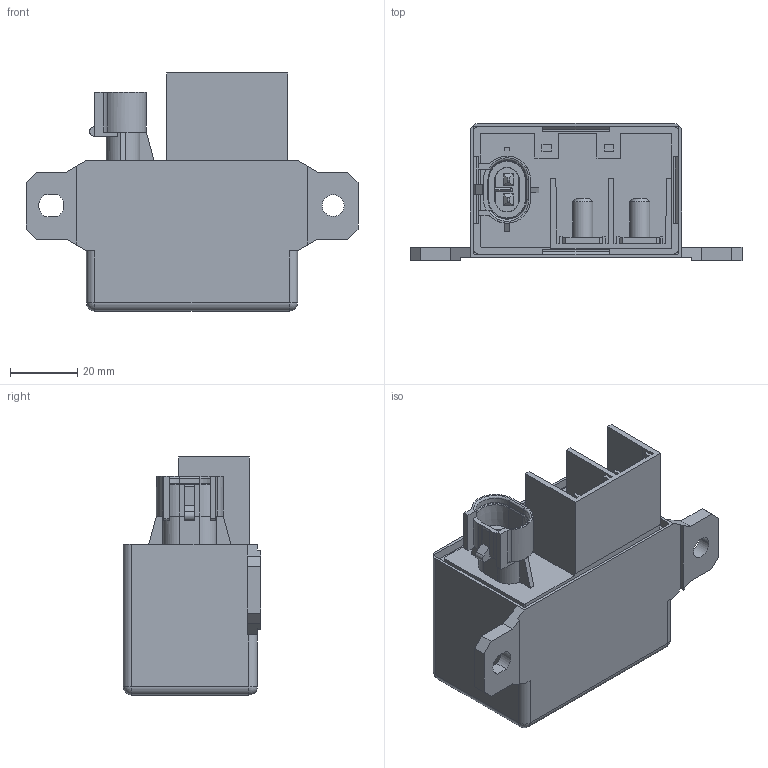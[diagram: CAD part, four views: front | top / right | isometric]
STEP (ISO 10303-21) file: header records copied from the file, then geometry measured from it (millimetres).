
FILE_DESCRIPTION((''),'2;1');
FILE_NAME('C-1393315-2','2009-06-19T',('workeradm'),(''),'PRO/ENGINEER BY PARAMETRIC TECHNOLOGY CORPORATION, 2008380','PRO/ENGINEER BY PARAMETRIC TECHNOLOGY CORPORATION, 2008380','');
FILE_SCHEMA(('AUTOMOTIVE_DESIGN { 1 0 10303 214 1 1 1 1 }'));
Length unit declared in the file: millimetre
Products named in the file (1): C-1393315-2
Bounding box: 98.9 x 40.9 x 70.9 mm (x, y, z)
Volume: 119164.5 mm3; surface area: 25898.5 mm2
Topology: 1 solids, 1 shells, 298 faces, 788 edges, 505 vertices
Faces by surface type: plane 230, cylinder 45, cone 11, sphere 6, torus 6
Entity records: 11499 total; most frequent: CARTESIAN_POINT 1635, ORIENTED_EDGE 1570, DIRECTION 1499, PRESENTATION_STYLE_ASSIGNMENT 786, STYLED_ITEM 786, CURVE_STYLE 785, EDGE_CURVE 785, VECTOR 655
